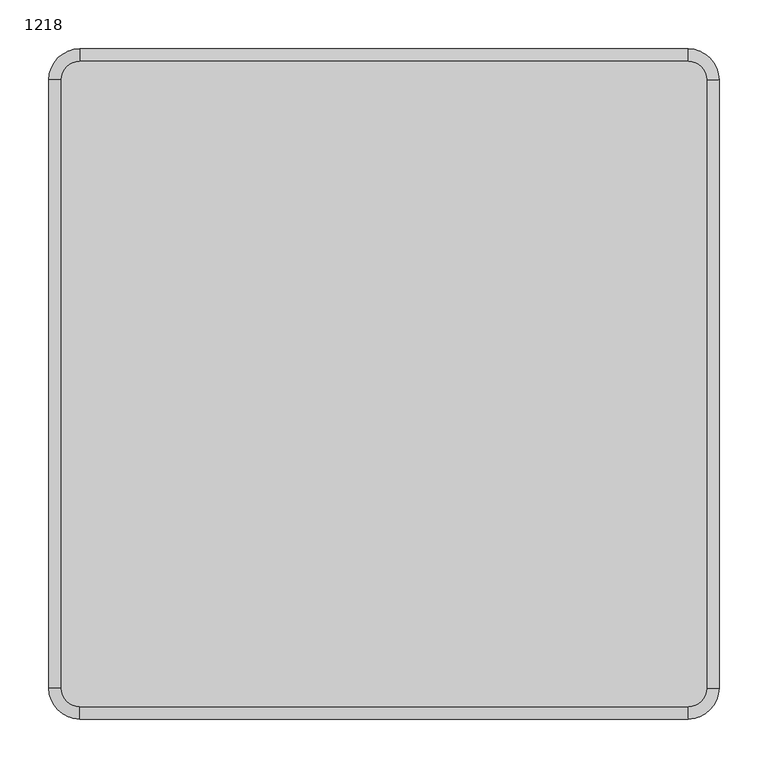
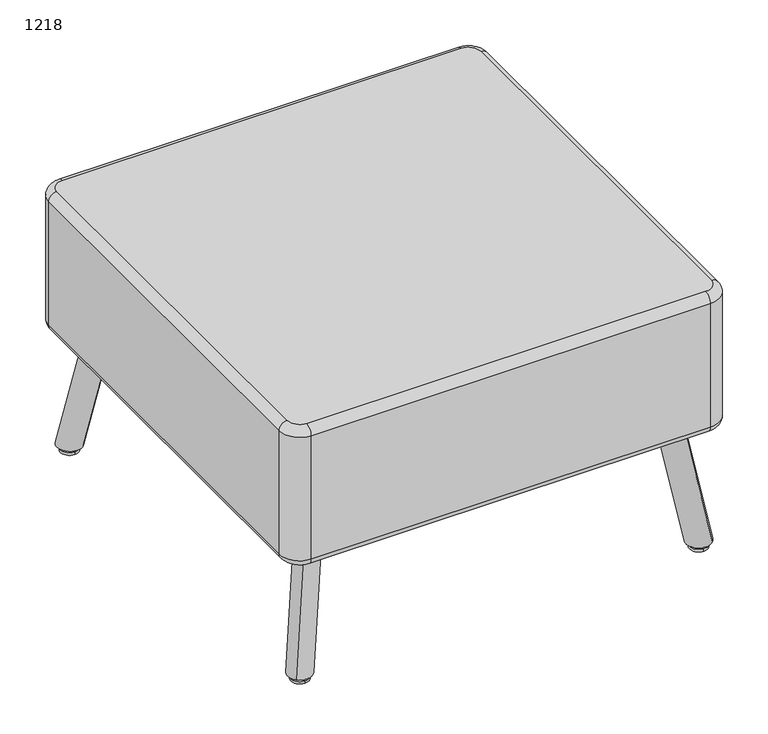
"""IFC4 building model written with IfcOpenShell, lengths in millimetres: furniture geometry, Laguna-Modular-Corner_Unit-ERG : 1218."""

from ifc_helpers import new_model, si_unit, point, frame, frame_2d, origin, place, context, project, spatial, polyline, circle_curve, ellipse_curve, trimmed, segment, composite_curve, outline, extrude, source, transform, mapped, element, save
from ifc_brep_helpers import plane_surface, cylinder_surface, revolved_surface, advanced_brep


def furniture_1218_1c4b5840(model_context):
    return source(origin(), model_context, "Body", "SolidModel", [
        advanced_brep(
        [(-4054.1088262, 625.5225001, 213.1041543), (-4027.7852493, 599.1989232, 221.2127055), (-4022.8519976, 594.2656715, 10.16), (-3995.2795669, 566.6932407, 10.16)],
        [
            (0, 1, circle_curve(frame((-4040.9470378, 612.3607116, 217.1584299), z_axis=(-0.1504884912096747, 0.15048849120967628, 0.9770907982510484), x_axis=(0.6909075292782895, -0.6909075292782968, 0.21282286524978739)), 19.05)),
            (1, 0, circle_curve(frame((-4040.9470378, 612.3607116, 217.1584299), z_axis=(-0.1504884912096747, 0.15048849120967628, 0.9770907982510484), x_axis=(0.6909075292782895, -0.6909075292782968, 0.21282286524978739)), 19.05)),
            (0, 2),
            (2, 3, ellipse_curve(frame((-4009.0657822, 580.4794561, 10.16), z_axis=(0.0, 0.0, 1.0), x_axis=(-0.7071067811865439, 0.7071067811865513, 0.0)), 19.4966528, 19.05)),
            (3, 1),
            (3, 2, ellipse_curve(frame((-4009.0657822, 580.4794561, 10.16), z_axis=(0.0, 0.0, 1.0), x_axis=(-0.7071067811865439, 0.7071067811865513, 0.0)), 19.4966528, 19.05)),
        ],
        [
            plane_surface(frame((-4040.9470378, 612.3607116, 217.1584299), z_axis=(-0.1504884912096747, 0.15048849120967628, 0.9770907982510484), x_axis=(-0.7071067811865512, -0.7071067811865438, 0.0))),
            cylinder_surface(frame((-4040.9470378, 612.3607116, 217.1584299), z_axis=(-0.1504884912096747, 0.15048849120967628, 0.9770907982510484), x_axis=(0.6909075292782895, -0.6909075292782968, 0.21282286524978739)), 19.05),
            plane_surface(frame((-4708.8602087, 1253.2877394, 10.16), z_axis=(0.0, 0.0, -1.0), x_axis=(-1.0, 0.0, 0.0))),
        ],
        [
            (0, [[1, 2]]),
            (1, [[-1, 3, 4, 5]]),
            (1, [[-2, -5, 6, -3]]),
            (2, [[-4, -6]]),
        ],
    ),
        advanced_brep(
        [(-4585.5755264, 1156.9892003, 213.1041543), (-4611.8991033, 1183.3127771, 221.2127055), (-4616.832355, 1188.2460289, 10.16), (-4644.4047857, 1215.8184596, 10.16)],
        [
            (0, 1, circle_curve(frame((-4598.7373148, 1170.1509887, 217.1584299), z_axis=(0.15048849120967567, -0.15048849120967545, 0.9770907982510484), x_axis=(-0.6909075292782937, 0.6909075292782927, 0.21282286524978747)), 19.05)),
            (1, 0, circle_curve(frame((-4598.7373148, 1170.1509887, 217.1584299), z_axis=(0.15048849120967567, -0.15048849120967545, 0.9770907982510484), x_axis=(-0.6909075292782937, 0.6909075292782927, 0.21282286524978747)), 19.05)),
            (0, 2),
            (2, 3, ellipse_curve(frame((-4630.6185704, 1202.0322442, 10.16), z_axis=(0.0, 0.0, 1.0), x_axis=(0.7071067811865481, -0.707106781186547, 0.0)), 19.4966528, 19.05)),
            (3, 1),
            (3, 2, ellipse_curve(frame((-4630.6185704, 1202.0322442, 10.16), z_axis=(0.0, 0.0, 1.0), x_axis=(0.7071067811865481, -0.707106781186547, 0.0)), 19.4966528, 19.05)),
        ],
        [
            plane_surface(frame((-4598.7373148, 1170.1509887, 217.1584299), z_axis=(0.15048849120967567, -0.15048849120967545, 0.9770907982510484), x_axis=(0.707106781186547, 0.707106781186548, 0.0))),
            cylinder_surface(frame((-4598.7373148, 1170.1509887, 217.1584299), z_axis=(0.15048849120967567, -0.15048849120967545, 0.9770907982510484), x_axis=(-0.6909075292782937, 0.6909075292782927, 0.21282286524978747)), 19.05),
            plane_surface(frame((-4708.8602087, 1253.2877394, 10.16), z_axis=(0.0, 0.0, -1.0), x_axis=(-1.0, 0.0, 0.0))),
        ],
        [
            (0, [[1, 2]]),
            (1, [[-1, 3, 4, 5]]),
            (1, [[-2, -5, 6, -3]]),
            (2, [[-4, -6]]),
        ],
    ),
        advanced_brep(
        [(-4027.7852493, 1183.3127771, 221.2127055), (-4054.1088262, 1156.9892003, 213.1041543), (-4022.8519976, 1188.2460289, 10.16), (-3995.2795669, 1215.8184596, 10.16)],
        [
            (0, 1, circle_curve(frame((-4040.9470378, 1170.1509887, 217.1584299), z_axis=(-0.15048849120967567, -0.15048849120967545, 0.9770907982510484), x_axis=(-0.6909075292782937, -0.6909075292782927, -0.21282286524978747)), 19.05)),
            (1, 0, circle_curve(frame((-4040.9470378, 1170.1509887, 217.1584299), z_axis=(-0.15048849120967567, -0.15048849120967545, 0.9770907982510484), x_axis=(-0.6909075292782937, -0.6909075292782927, -0.21282286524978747)), 19.05)),
            (1, 2),
            (2, 3, ellipse_curve(frame((-4009.0657822, 1202.0322442, 10.16), z_axis=(0.0, 0.0, 1.0), x_axis=(-0.7071067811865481, -0.707106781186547, 0.0)), 19.4966528, 19.05)),
            (3, 0),
            (3, 2, ellipse_curve(frame((-4009.0657822, 1202.0322442, 10.16), z_axis=(0.0, 0.0, 1.0), x_axis=(-0.7071067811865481, -0.707106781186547, 0.0)), 19.4966528, 19.05)),
        ],
        [
            plane_surface(frame((-4040.9470378, 1170.1509887, 217.1584299), z_axis=(-0.15048849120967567, -0.15048849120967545, 0.9770907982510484), x_axis=(-0.707106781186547, 0.707106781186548, 0.0))),
            cylinder_surface(frame((-4040.9470378, 1170.1509887, 217.1584299), z_axis=(-0.15048849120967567, -0.15048849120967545, 0.9770907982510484), x_axis=(-0.6909075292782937, -0.6909075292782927, -0.21282286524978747)), 19.05),
            plane_surface(frame((-4708.8602087, 1253.2877394, 10.16), z_axis=(0.0, 0.0, -1.0), x_axis=(-1.0, 0.0, 0.0))),
        ],
        [
            (0, [[1, 2]]),
            (1, [[-2, 3, 4, 5]]),
            (1, [[-1, -5, 6, -3]]),
            (2, [[-4, -6]]),
        ],
    ),
        advanced_brep(
        [(-4585.5755264, 625.5225001, 213.1041543), (-4611.8991033, 599.1989232, 221.2127055), (-4616.832355, 594.2656715, 10.16), (-4644.4047857, 566.6932407, 10.16)],
        [
            (0, 1, circle_curve(frame((-4598.7373148, 612.3607116, 217.1584299), z_axis=(0.15048849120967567, 0.1504884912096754, 0.9770907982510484), x_axis=(-0.6909075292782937, -0.6909075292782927, 0.21282286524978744)), 19.05)),
            (1, 0, circle_curve(frame((-4598.7373148, 612.3607116, 217.1584299), z_axis=(0.15048849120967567, 0.1504884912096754, 0.9770907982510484), x_axis=(-0.6909075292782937, -0.6909075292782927, 0.21282286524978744)), 19.05)),
            (0, 2),
            (2, 3, ellipse_curve(frame((-4630.6185704, 580.4794561, 10.16), z_axis=(0.0, 0.0, 1.0), x_axis=(0.7071067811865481, 0.7071067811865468, 0.0)), 19.4966528, 19.05)),
            (3, 1),
            (3, 2, ellipse_curve(frame((-4630.6185704, 580.4794561, 10.16), z_axis=(0.0, 0.0, 1.0), x_axis=(0.7071067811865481, 0.7071067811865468, 0.0)), 19.4966528, 19.05)),
        ],
        [
            plane_surface(frame((-4598.7373148, 612.3607116, 217.1584299), z_axis=(0.15048849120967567, 0.1504884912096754, 0.9770907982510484), x_axis=(-0.707106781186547, 0.707106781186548, 0.0))),
            cylinder_surface(frame((-4598.7373148, 612.3607116, 217.1584299), z_axis=(0.15048849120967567, 0.1504884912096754, 0.9770907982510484), x_axis=(-0.6909075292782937, -0.6909075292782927, 0.21282286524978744)), 19.05),
            plane_surface(frame((-4708.8602087, 1253.2877394, 10.16), z_axis=(0.0, 0.0, -1.0), x_axis=(-1.0, 0.0, 0.0))),
        ],
        [
            (0, [[1, 2]]),
            (1, [[-1, 3, 4, 5]]),
            (1, [[-2, -5, 6, -3]]),
            (2, [[-4, -6]]),
        ],
    ),
        extrude(outline(composite_curve([segment(trimmed(circle_curve(frame_2d((-4607.7447847, 646.4584712)), 5.08), [point((-4611.3368871, 650.0505736))], [point((-4604.1526822, 650.0505736))], False, "CARTESIAN"), True, "CONTINUOUS"), segment(polyline([(-4604.1526822, 650.0505736), (-4561.0474529, 606.9453442)]), True, "CONTINUOUS"), segment(trimmed(circle_curve(frame_2d((-4564.6395553, 603.3532418)), 5.08), [point((-4561.0474529, 606.9453442))], [point((-4561.0474529, 599.7611393))], False, "CARTESIAN"), True, "CONTINUOUS"), segment(polyline([(-4561.0474529, 599.7611393), (-4589.7842724, 571.0243198)]), True, "CONTINUOUS"), segment(trimmed(circle_curve(frame_2d((-4593.3763749, 574.6164222)), 5.08), [point((-4589.7842724, 571.0243198))], [point((-4596.9684773, 571.0243198))], False, "CARTESIAN"), True, "CONTINUOUS"), segment(polyline([(-4596.9684773, 571.0243198), (-4640.0737067, 614.1295491)]), True, "CONTINUOUS"), segment(trimmed(circle_curve(frame_2d((-4636.4816043, 617.7216516)), 5.08), [point((-4640.0737067, 614.1295491))], [point((-4640.0737067, 621.313754))], False, "CARTESIAN"), True, "CONTINUOUS"), segment(polyline([(-4640.0737067, 621.313754), (-4611.3368871, 650.0505736)]), True, "CONTINUOUS")], self_intersect=False)), frame((0.0, 0.0, 200.66), z_axis=(0.0, 0.0, 1.0), x_axis=(1.0, 0.0, 0.0)), (0.0, 0.0, 1.0), 2.54),
        extrude(outline(composite_curve([segment(polyline([(-4078.6368998, 1182.750561), (-4049.9000802, 1211.4873806)]), True, "CONTINUOUS"), segment(trimmed(circle_curve(frame_2d((-4046.3079777, 1207.8952781)), 5.08), [point((-4049.9000802, 1211.4873806))], [point((-4042.7158753, 1211.4873806))], False, "CARTESIAN"), True, "CONTINUOUS"), segment(polyline([(-4042.7158753, 1211.4873806), (-3999.6106459, 1168.3821512)]), True, "CONTINUOUS"), segment(trimmed(circle_curve(frame_2d((-4003.2027483, 1164.7900488)), 5.08), [point((-3999.6106459, 1168.3821512))], [point((-3999.6106459, 1161.1979463))], False, "CARTESIAN"), True, "CONTINUOUS"), segment(polyline([(-3999.6106459, 1161.1979463), (-4028.3474655, 1132.4611267)]), True, "CONTINUOUS"), segment(trimmed(circle_curve(frame_2d((-4031.9395679, 1136.0532292)), 5.08), [point((-4028.3474655, 1132.4611267))], [point((-4035.5316704, 1132.4611267))], False, "CARTESIAN"), True, "CONTINUOUS"), segment(polyline([(-4035.5316704, 1132.4611267), (-4078.6368998, 1175.5663561)]), True, "CONTINUOUS"), segment(trimmed(circle_curve(frame_2d((-4075.0447973, 1179.1584585)), 5.08), [point((-4078.6368998, 1175.5663561))], [point((-4078.6368998, 1182.750561))], False, "CARTESIAN"), True, "CONTINUOUS")], self_intersect=False)), frame((0.0, 0.0, 200.66), z_axis=(0.0, 0.0, 1.0), x_axis=(1.0, 0.0, 0.0)), (0.0, 0.0, 1.0), 2.54),
        extrude(outline(composite_curve([segment(trimmed(circle_curve(frame_2d((-4564.6395553, 1179.1584585)), 5.08), [point((-4561.0474529, 1182.750561))], [point((-4561.0474529, 1175.5663561))], False, "CARTESIAN"), True, "CONTINUOUS"), segment(polyline([(-4561.0474529, 1175.5663561), (-4604.1526822, 1132.4611267)]), True, "CONTINUOUS"), segment(trimmed(circle_curve(frame_2d((-4607.7447847, 1136.0532292)), 5.08), [point((-4604.1526822, 1132.4611267))], [point((-4611.3368871, 1132.4611267))], False, "CARTESIAN"), True, "CONTINUOUS"), segment(polyline([(-4611.3368871, 1132.4611267), (-4640.0737067, 1161.1979463)]), True, "CONTINUOUS"), segment(trimmed(circle_curve(frame_2d((-4636.4816043, 1164.7900488)), 5.08), [point((-4640.0737067, 1161.1979463))], [point((-4640.0737067, 1168.3821512))], False, "CARTESIAN"), True, "CONTINUOUS"), segment(polyline([(-4640.0737067, 1168.3821512), (-4596.9684773, 1211.4873806)]), True, "CONTINUOUS"), segment(trimmed(circle_curve(frame_2d((-4593.3763749, 1207.8952781)), 5.08), [point((-4596.9684773, 1211.4873806))], [point((-4589.7842724, 1211.4873806))], False, "CARTESIAN"), True, "CONTINUOUS"), segment(polyline([(-4589.7842724, 1211.4873806), (-4561.0474529, 1182.750561)]), True, "CONTINUOUS")], self_intersect=False)), frame((0.0, 0.0, 200.66), z_axis=(0.0, 0.0, 1.0), x_axis=(1.0, 0.0, 0.0)), (0.0, 0.0, 1.0), 2.54),
        extrude(outline(composite_curve([segment(polyline([(-4028.3474655, 650.0505736), (-3999.6106459, 621.313754)]), True, "CONTINUOUS"), segment(trimmed(circle_curve(frame_2d((-4003.2027483, 617.7216516)), 5.08), [point((-3999.6106459, 621.313754))], [point((-3999.6106459, 614.1295491))], False, "CARTESIAN"), True, "CONTINUOUS"), segment(polyline([(-3999.6106459, 614.1295491), (-4042.7158753, 571.0243198)]), True, "CONTINUOUS"), segment(trimmed(circle_curve(frame_2d((-4046.3079777, 574.6164222)), 5.08), [point((-4042.7158753, 571.0243198))], [point((-4049.9000802, 571.0243198))], False, "CARTESIAN"), True, "CONTINUOUS"), segment(polyline([(-4049.9000802, 571.0243198), (-4078.6368998, 599.7611393)]), True, "CONTINUOUS"), segment(trimmed(circle_curve(frame_2d((-4075.0447973, 603.3532418)), 5.08), [point((-4078.6368998, 599.7611393))], [point((-4078.6368998, 606.9453442))], False, "CARTESIAN"), True, "CONTINUOUS"), segment(polyline([(-4078.6368998, 606.9453442), (-4035.5316704, 650.0505736)]), True, "CONTINUOUS"), segment(trimmed(circle_curve(frame_2d((-4031.9395679, 646.4584712)), 5.08), [point((-4035.5316704, 650.0505736))], [point((-4028.3474655, 650.0505736))], False, "CARTESIAN"), True, "CONTINUOUS")], self_intersect=False)), frame((0.0, 0.0, 200.66), z_axis=(0.0, 0.0, 1.0), x_axis=(1.0, 0.0, 0.0)), (0.0, 0.0, 1.0), 2.54),
        advanced_brep(
        [(-4008.9588318, 576.1294575, 10.16), (-4008.9588318, 584.6155538, 10.16), (-4008.9588318, 580.3725057, 10.16), (-4008.9588318, 580.3725057, 0.0), (-4008.9588318, 594.4508591, 0.0), (-4008.9588318, 566.2941522, 0.0), (-4008.9588318, 594.4508591, 3.9615026), (-4008.9588318, 566.2941522, 3.9615026), (-4008.9588318, 584.6155538, 3.9615026), (-4008.9588318, 576.1294575, 3.9615026)],
        [
            (0, 1, circle_curve(frame((-4008.9588318, 580.3725057, 10.16), z_axis=(0.0, 0.0, 1.0), x_axis=(0.0, 1.0, 0.0)), 4.2430482)),
            (1, 2),
            (2, 0),
            (1, 0, circle_curve(frame((-4008.9588318, 580.3725057, 10.16), z_axis=(0.0, 0.0, 1.0), x_axis=(0.0, 1.0, 0.0)), 4.2430482)),
            (3, 4),
            (4, 5, circle_curve(frame((-4008.9588318, 580.3725057, 0.0), z_axis=(0.0, 0.0, -1.0), x_axis=(0.0, 1.0, 0.0)), 14.0783534)),
            (5, 3),
            (5, 4, circle_curve(frame((-4008.9588318, 580.3725057, 0.0), z_axis=(0.0, 0.0, -1.0), x_axis=(0.0, 1.0, 0.0)), 14.0783534)),
            (4, 6),
            (6, 7, circle_curve(frame((-4008.9588318, 580.3725057, 3.9615026), z_axis=(0.0, 0.0, -1.0), x_axis=(0.0, 1.0, 0.0)), 14.0783534)),
            (7, 5),
            (7, 6, circle_curve(frame((-4008.9588318, 580.3725057, 3.9615026), z_axis=(0.0, 0.0, -1.0), x_axis=(0.0, 1.0, 0.0)), 14.0783534)),
            (6, 8),
            (8, 9, circle_curve(frame((-4008.9588318, 580.3725057, 3.9615026), z_axis=(0.0, 0.0, -1.0), x_axis=(0.0, 1.0, 0.0)), 4.2430482)),
            (9, 7),
            (9, 8, circle_curve(frame((-4008.9588318, 580.3725057, 3.9615026), z_axis=(0.0, 0.0, -1.0), x_axis=(0.0, 1.0, 0.0)), 4.2430482)),
            (8, 1),
            (0, 9),
        ],
        [
            plane_surface(frame((-4008.9588318, 580.3725057, 10.16), z_axis=(0.0, 0.0, 1.0), x_axis=(0.0, 1.0, 0.0))),
            plane_surface(frame((-4008.9588318, 580.3725057, 0.0), z_axis=(0.0, 0.0, -1.0), x_axis=(0.0, 1.0, 0.0))),
            cylinder_surface(frame((-4008.9588318, 580.3725057, 10.16), z_axis=(0.0, 0.0, -1.0), x_axis=(0.0, 1.0, 0.0)), 14.0783534),
            plane_surface(frame((-4008.9588318, 580.3725057, 3.9615026), z_axis=(0.0, 0.0, 1.0), x_axis=(0.0, 1.0, 0.0))),
            cylinder_surface(frame((-4008.9588318, 580.3725057, 10.16), z_axis=(0.0, 0.0, -1.0), x_axis=(0.0, 1.0, 0.0)), 4.2430482),
        ],
        [
            (0, [[1, 2, 3]]),
            (0, [[4, -3, -2]]),
            (1, [[5, 6, 7]]),
            (1, [[-7, 8, -5]]),
            (2, [[-6, 9, 10, 11]]),
            (2, [[-8, -11, 12, -9]]),
            (3, [[-10, 13, 14, 15]]),
            (3, [[-12, -15, 16, -13]]),
            (4, [[-14, 17, -1, 18]]),
            (4, [[-16, -18, -4, -17]]),
        ],
    ),
        advanced_brep(
        [(-4630.7255208, 580.3725057, 10.16), (-4630.7255208, 584.6155538, 10.16), (-4630.7255208, 576.1294575, 10.16), (-4630.7255208, 566.2941522, 0.0), (-4630.7255208, 594.4508591, 0.0), (-4630.7255208, 580.3725057, 0.0), (-4630.7255208, 566.2941522, 3.9615026), (-4630.7255208, 594.4508591, 3.9615026), (-4630.7255208, 576.1294575, 3.9615026), (-4630.7255208, 584.6155538, 3.9615026)],
        [
            (0, 1),
            (1, 2, circle_curve(frame((-4630.7255208, 580.3725057, 10.16), z_axis=(0.0, 0.0, 1.0), x_axis=(0.0, 1.0, 0.0)), 4.2430482)),
            (2, 0),
            (2, 1, circle_curve(frame((-4630.7255208, 580.3725057, 10.16), z_axis=(0.0, 0.0, 1.0), x_axis=(0.0, 1.0, 0.0)), 4.2430482)),
            (3, 4, circle_curve(frame((-4630.7255208, 580.3725057, 0.0), z_axis=(0.0, 0.0, -1.0), x_axis=(0.0, 1.0, 0.0)), 14.0783534)),
            (4, 5),
            (5, 3),
            (4, 3, circle_curve(frame((-4630.7255208, 580.3725057, 0.0), z_axis=(0.0, 0.0, -1.0), x_axis=(0.0, 1.0, 0.0)), 14.0783534)),
            (6, 7, circle_curve(frame((-4630.7255208, 580.3725057, 3.9615026), z_axis=(0.0, 0.0, -1.0), x_axis=(0.0, 1.0, 0.0)), 14.0783534)),
            (7, 4),
            (3, 6),
            (7, 6, circle_curve(frame((-4630.7255208, 580.3725057, 3.9615026), z_axis=(0.0, 0.0, -1.0), x_axis=(0.0, 1.0, 0.0)), 14.0783534)),
            (8, 9, circle_curve(frame((-4630.7255208, 580.3725057, 3.9615026), z_axis=(0.0, 0.0, -1.0), x_axis=(0.0, 1.0, 0.0)), 4.2430482)),
            (9, 7),
            (6, 8),
            (9, 8, circle_curve(frame((-4630.7255208, 580.3725057, 3.9615026), z_axis=(0.0, 0.0, -1.0), x_axis=(0.0, 1.0, 0.0)), 4.2430482)),
            (1, 9),
            (8, 2),
        ],
        [
            plane_surface(frame((-4630.7255208, 580.3725057, 10.16), z_axis=(0.0, 0.0, 1.0), x_axis=(0.0, 1.0, 0.0))),
            plane_surface(frame((-4630.7255208, 580.3725057, 0.0), z_axis=(0.0, 0.0, -1.0), x_axis=(0.0, 1.0, 0.0))),
            cylinder_surface(frame((-4630.7255208, 580.3725057, 10.16), z_axis=(0.0, 0.0, 1.0), x_axis=(0.0, 1.0, 0.0)), 14.0783534),
            plane_surface(frame((-4630.7255208, 580.3725057, 3.9615026), z_axis=(0.0, 0.0, 1.0), x_axis=(0.0, 1.0, 0.0))),
            cylinder_surface(frame((-4630.7255208, 580.3725057, 10.16), z_axis=(0.0, 0.0, 1.0), x_axis=(0.0, 1.0, 0.0)), 4.2430482),
        ],
        [
            (0, [[1, 2, 3]]),
            (0, [[-3, 4, -1]]),
            (1, [[5, 6, 7]]),
            (1, [[8, -7, -6]]),
            (2, [[9, 10, -5, 11]]),
            (2, [[12, -11, -8, -10]]),
            (3, [[13, 14, -9, 15]]),
            (3, [[16, -15, -12, -14]]),
            (4, [[-2, 17, -13, 18]]),
            (4, [[-4, -18, -16, -17]]),
        ],
    ),
        advanced_brep(
        [(-4008.9588318, 1202.1391947, 10.16), (-4008.9588318, 1197.8961465, 10.16), (-4008.9588318, 1206.3822428, 10.16), (-4008.9588318, 1216.2175481, 0.0), (-4008.9588318, 1188.0608412, 0.0), (-4008.9588318, 1202.1391947, 0.0), (-4008.9588318, 1216.2175481, 3.9615026), (-4008.9588318, 1188.0608412, 3.9615026), (-4008.9588318, 1206.3822428, 3.9615026), (-4008.9588318, 1197.8961465, 3.9615026)],
        [
            (0, 1),
            (1, 2, circle_curve(frame((-4008.9588318, 1202.1391947, 10.16), z_axis=(0.0, 0.0, 1.0), x_axis=(0.0, -1.0, 0.0)), 4.2430482)),
            (2, 0),
            (2, 1, circle_curve(frame((-4008.9588318, 1202.1391947, 10.16), z_axis=(0.0, 0.0, 1.0), x_axis=(0.0, -1.0, 0.0)), 4.2430482)),
            (3, 4, circle_curve(frame((-4008.9588318, 1202.1391947, 0.0), z_axis=(0.0, 0.0, -1.0), x_axis=(0.0, -1.0, 0.0)), 14.0783534)),
            (4, 5),
            (5, 3),
            (4, 3, circle_curve(frame((-4008.9588318, 1202.1391947, 0.0), z_axis=(0.0, 0.0, -1.0), x_axis=(0.0, -1.0, 0.0)), 14.0783534)),
            (6, 7, circle_curve(frame((-4008.9588318, 1202.1391947, 3.9615026), z_axis=(0.0, 0.0, -1.0), x_axis=(0.0, -1.0, 0.0)), 14.0783534)),
            (7, 4),
            (3, 6),
            (7, 6, circle_curve(frame((-4008.9588318, 1202.1391947, 3.9615026), z_axis=(0.0, 0.0, -1.0), x_axis=(0.0, -1.0, 0.0)), 14.0783534)),
            (8, 9, circle_curve(frame((-4008.9588318, 1202.1391947, 3.9615026), z_axis=(0.0, 0.0, -1.0), x_axis=(0.0, -1.0, 0.0)), 4.2430482)),
            (9, 7),
            (6, 8),
            (9, 8, circle_curve(frame((-4008.9588318, 1202.1391947, 3.9615026), z_axis=(0.0, 0.0, -1.0), x_axis=(0.0, -1.0, 0.0)), 4.2430482)),
            (1, 9),
            (8, 2),
        ],
        [
            plane_surface(frame((-4008.9588318, 1202.1391947, 10.16), z_axis=(0.0, 0.0, 1.0), x_axis=(0.0, -1.0, 0.0))),
            plane_surface(frame((-4008.9588318, 1202.1391947, 0.0), z_axis=(0.0, 0.0, -1.0), x_axis=(0.0, -1.0, 0.0))),
            cylinder_surface(frame((-4008.9588318, 1202.1391947, 10.16), z_axis=(0.0, 0.0, 1.0), x_axis=(0.0, -1.0, 0.0)), 14.0783534),
            plane_surface(frame((-4008.9588318, 1202.1391947, 3.9615026), z_axis=(0.0, 0.0, 1.0), x_axis=(0.0, -1.0, 0.0))),
            cylinder_surface(frame((-4008.9588318, 1202.1391947, 10.16), z_axis=(0.0, 0.0, 1.0), x_axis=(0.0, -1.0, 0.0)), 4.2430482),
        ],
        [
            (0, [[1, 2, 3]]),
            (0, [[-3, 4, -1]]),
            (1, [[5, 6, 7]]),
            (1, [[8, -7, -6]]),
            (2, [[9, 10, -5, 11]]),
            (2, [[12, -11, -8, -10]]),
            (3, [[13, 14, -9, 15]]),
            (3, [[16, -15, -12, -14]]),
            (4, [[-2, 17, -13, 18]]),
            (4, [[-4, -18, -16, -17]]),
        ],
    ),
        advanced_brep(
        [(-4630.7255208, 1206.3822428, 10.16), (-4630.7255208, 1197.8961465, 10.16), (-4630.7255208, 1202.1391947, 10.16), (-4630.7255208, 1202.1391947, 0.0), (-4630.7255208, 1188.0608412, 0.0), (-4630.7255208, 1216.2175481, 0.0), (-4630.7255208, 1188.0608412, 3.9615026), (-4630.7255208, 1216.2175481, 3.9615026), (-4630.7255208, 1197.8961465, 3.9615026), (-4630.7255208, 1206.3822428, 3.9615026)],
        [
            (0, 1, circle_curve(frame((-4630.7255208, 1202.1391947, 10.16), z_axis=(0.0, 0.0, 1.0), x_axis=(0.0, -1.0, 0.0)), 4.2430482)),
            (1, 2),
            (2, 0),
            (1, 0, circle_curve(frame((-4630.7255208, 1202.1391947, 10.16), z_axis=(0.0, 0.0, 1.0), x_axis=(0.0, -1.0, 0.0)), 4.2430482)),
            (3, 4),
            (4, 5, circle_curve(frame((-4630.7255208, 1202.1391947, 0.0), z_axis=(0.0, 0.0, -1.0), x_axis=(0.0, -1.0, 0.0)), 14.0783534)),
            (5, 3),
            (5, 4, circle_curve(frame((-4630.7255208, 1202.1391947, 0.0), z_axis=(0.0, 0.0, -1.0), x_axis=(0.0, -1.0, 0.0)), 14.0783534)),
            (4, 6),
            (6, 7, circle_curve(frame((-4630.7255208, 1202.1391947, 3.9615026), z_axis=(0.0, 0.0, -1.0), x_axis=(0.0, -1.0, 0.0)), 14.0783534)),
            (7, 5),
            (7, 6, circle_curve(frame((-4630.7255208, 1202.1391947, 3.9615026), z_axis=(0.0, 0.0, -1.0), x_axis=(0.0, -1.0, 0.0)), 14.0783534)),
            (6, 8),
            (8, 9, circle_curve(frame((-4630.7255208, 1202.1391947, 3.9615026), z_axis=(0.0, 0.0, -1.0), x_axis=(0.0, -1.0, 0.0)), 4.2430482)),
            (9, 7),
            (9, 8, circle_curve(frame((-4630.7255208, 1202.1391947, 3.9615026), z_axis=(0.0, 0.0, -1.0), x_axis=(0.0, -1.0, 0.0)), 4.2430482)),
            (8, 1),
            (0, 9),
        ],
        [
            plane_surface(frame((-4630.7255208, 1202.1391947, 10.16), z_axis=(0.0, 0.0, 1.0), x_axis=(0.0, -1.0, 0.0))),
            plane_surface(frame((-4630.7255208, 1202.1391947, 0.0), z_axis=(0.0, 0.0, -1.0), x_axis=(0.0, -1.0, 0.0))),
            cylinder_surface(frame((-4630.7255208, 1202.1391947, 10.16), z_axis=(0.0, 0.0, -1.0), x_axis=(0.0, -1.0, 0.0)), 14.0783534),
            plane_surface(frame((-4630.7255208, 1202.1391947, 3.9615026), z_axis=(0.0, 0.0, 1.0), x_axis=(0.0, -1.0, 0.0))),
            cylinder_surface(frame((-4630.7255208, 1202.1391947, 10.16), z_axis=(0.0, 0.0, -1.0), x_axis=(0.0, -1.0, 0.0)), 4.2430482),
        ],
        [
            (0, [[1, 2, 3]]),
            (0, [[4, -3, -2]]),
            (1, [[5, 6, 7]]),
            (1, [[-7, 8, -5]]),
            (2, [[-6, 9, 10, 11]]),
            (2, [[-8, -11, 12, -9]]),
            (3, [[-10, 13, 14, 15]]),
            (3, [[-12, -15, 16, -13]]),
            (4, [[-14, 17, -1, 18]]),
            (4, [[-16, -18, -4, -17]]),
        ],
    ),
        advanced_brep(
        [(-3976.9421763, 1202.4058502, 215.9), (-4008.6921763, 1234.1558502, 215.9), (-4008.6921763, 1234.1558502, 419.1), (-3976.9421763, 1202.4058502, 419.1), (-3976.9421763, 580.1058502, 419.1), (-3976.9421763, 580.1058502, 215.9), (-4008.6921763, 548.3558502, 419.1), (-4008.6921763, 548.3558502, 215.9), (-4630.9921763, 548.3558502, 419.1), (-4630.9921763, 548.3558502, 215.9), (-4662.7421763, 580.1058502, 419.1), (-4662.7421763, 580.1058502, 215.9), (-4662.7421763, 1202.4058502, 419.1), (-4662.7421763, 1202.4058502, 215.9), (-4630.9921763, 1234.1558502, 419.1), (-4630.9921763, 1234.1558502, 215.9), (-3989.6421763, 1202.4058502, 431.8), (-4008.6921763, 1221.4558502, 431.8), (-4630.9921763, 1221.4558502, 431.8), (-4650.0421763, 1202.4058502, 431.8), (-4650.0421763, 580.1058502, 431.8), (-4630.9921763, 561.0558502, 431.8), (-4008.6921763, 561.0558502, 431.8), (-3989.6421763, 580.1058502, 431.8), (-4008.6921763, 1221.4558502, 203.2), (-3989.6421763, 1202.4058502, 203.2), (-3989.6421763, 580.1058502, 203.2), (-4008.6921763, 561.0558502, 203.2), (-4630.9921763, 561.0558502, 203.2), (-4650.0421763, 580.1058502, 203.2), (-4650.0421763, 1202.4058502, 203.2), (-4630.9921763, 1221.4558502, 203.2)],
        [
            (0, 1, circle_curve(frame((-4008.6921763, 1202.4058502, 215.9), z_axis=(0.0, 0.0, 1.0), x_axis=(0.0, 1.0, 0.0)), 31.75)),
            (1, 2),
            (2, 3, circle_curve(frame((-4008.6921763, 1202.4058502, 419.1), z_axis=(0.0, 0.0, -1.0), x_axis=(0.0, 1.0, 0.0)), 31.75)),
            (3, 0),
            (3, 4),
            (4, 5),
            (5, 0),
            (4, 6, circle_curve(frame((-4008.6921763, 580.1058502, 419.1), z_axis=(0.0, 0.0, -1.0), x_axis=(1.0, 0.0, 0.0)), 31.75)),
            (6, 7),
            (7, 5, circle_curve(frame((-4008.6921763, 580.1058502, 215.9), z_axis=(0.0, 0.0, 1.0), x_axis=(1.0, 0.0, 0.0)), 31.75)),
            (6, 8),
            (8, 9),
            (9, 7),
            (8, 10, circle_curve(frame((-4630.9921763, 580.1058502, 419.1), z_axis=(0.0, 0.0, -1.0), x_axis=(0.0, -1.0, 0.0)), 31.75)),
            (10, 11),
            (11, 9, circle_curve(frame((-4630.9921763, 580.1058502, 215.9), z_axis=(0.0, 0.0, 1.0), x_axis=(0.0, -1.0, 0.0)), 31.75)),
            (10, 12),
            (12, 13),
            (13, 11),
            (12, 14, circle_curve(frame((-4630.9921763, 1202.4058502, 419.1), z_axis=(0.0, 0.0, -1.0), x_axis=(-1.0, 0.0, 0.0)), 31.75)),
            (14, 15),
            (15, 13, circle_curve(frame((-4630.9921763, 1202.4058502, 215.9), z_axis=(0.0, 0.0, 1.0), x_axis=(-1.0, 0.0, 0.0)), 31.75)),
            (1, 15),
            (14, 2),
            (16, 17, circle_curve(frame((-4008.6921763, 1202.4058502, 431.8), z_axis=(0.0, 0.0, 1.0), x_axis=(0.0, 1.0, 0.0)), 19.05)),
            (17, 18),
            (18, 19, circle_curve(frame((-4630.9921763, 1202.4058502, 431.8), z_axis=(0.0, 0.0, 1.0), x_axis=(-1.0, 0.0, 0.0)), 19.05)),
            (19, 20),
            (20, 21, circle_curve(frame((-4630.9921763, 580.1058502, 431.8), z_axis=(0.0, 0.0, 1.0), x_axis=(0.0, -1.0, 0.0)), 19.05)),
            (21, 22),
            (22, 23, circle_curve(frame((-4008.6921763, 580.1058502, 431.8), z_axis=(0.0, 0.0, 1.0), x_axis=(1.0, 0.0, 0.0)), 19.05)),
            (23, 16),
            (24, 25, circle_curve(frame((-4008.6921763, 1202.4058502, 203.2), z_axis=(0.0, 0.0, -1.0), x_axis=(0.0, 1.0, 0.0)), 19.05)),
            (25, 26),
            (26, 27, circle_curve(frame((-4008.6921763, 580.1058502, 203.2), z_axis=(0.0, 0.0, -1.0), x_axis=(1.0, 0.0, 0.0)), 19.05)),
            (27, 28),
            (28, 29, circle_curve(frame((-4630.9921763, 580.1058502, 203.2), z_axis=(0.0, 0.0, -1.0), x_axis=(0.0, -1.0, 0.0)), 19.05)),
            (29, 30),
            (30, 31, circle_curve(frame((-4630.9921763, 1202.4058502, 203.2), z_axis=(0.0, 0.0, -1.0), x_axis=(-1.0, 0.0, 0.0)), 19.05)),
            (31, 24),
            (2, 17, circle_curve(frame((-4008.6921763, 1221.4558502, 419.1), z_axis=(1.0, 0.0, 0.0), x_axis=(0.0, 1.0, 0.0)), 12.7)),
            (16, 3, circle_curve(frame((-3989.6421763, 1202.4058502, 419.1), z_axis=(0.0, 1.0, 0.0), x_axis=(1.0, 0.0, 0.0)), 12.7)),
            (0, 25, circle_curve(frame((-3989.6421763, 1202.4058502, 215.9), z_axis=(0.0, 1.0, 0.0), x_axis=(1.0, 0.0, 0.0)), 12.7)),
            (24, 1, circle_curve(frame((-4008.6921763, 1221.4558502, 215.9), z_axis=(1.0, 0.0, 0.0), x_axis=(0.0, 1.0, 0.0)), 12.7)),
            (23, 4, circle_curve(frame((-3989.6421763, 580.1058502, 419.1), z_axis=(0.0, 1.0, 0.0), x_axis=(1.0, 0.0, 0.0)), 12.7)),
            (5, 26, circle_curve(frame((-3989.6421763, 580.1058502, 215.9), z_axis=(0.0, 1.0, 0.0), x_axis=(1.0, 0.0, 0.0)), 12.7)),
            (22, 6, circle_curve(frame((-4008.6921763, 561.0558502, 419.1), z_axis=(1.0, 0.0, 0.0), x_axis=(0.0, -1.0, 0.0)), 12.7)),
            (7, 27, circle_curve(frame((-4008.6921763, 561.0558502, 215.9), z_axis=(1.0, 0.0, 0.0), x_axis=(0.0, -1.0, 0.0)), 12.7)),
            (21, 8, circle_curve(frame((-4630.9921763, 561.0558502, 419.1), z_axis=(1.0, 0.0, 0.0), x_axis=(0.0, -1.0, 0.0)), 12.7)),
            (9, 28, circle_curve(frame((-4630.9921763, 561.0558502, 215.9), z_axis=(1.0, 0.0, 0.0), x_axis=(0.0, -1.0, 0.0)), 12.7)),
            (20, 10, circle_curve(frame((-4650.0421763, 580.1058502, 419.1), z_axis=(0.0, -1.0, 0.0), x_axis=(-1.0, 0.0, 0.0)), 12.7)),
            (11, 29, circle_curve(frame((-4650.0421763, 580.1058502, 215.9), z_axis=(0.0, -1.0, 0.0), x_axis=(-1.0, 0.0, 0.0)), 12.7)),
            (19, 12, circle_curve(frame((-4650.0421763, 1202.4058502, 419.1), z_axis=(0.0, -1.0, 0.0), x_axis=(-1.0, 0.0, 0.0)), 12.7)),
            (13, 30, circle_curve(frame((-4650.0421763, 1202.4058502, 215.9), z_axis=(0.0, -1.0, 0.0), x_axis=(-1.0, 0.0, 0.0)), 12.7)),
            (18, 14, circle_curve(frame((-4630.9921763, 1221.4558502, 419.1), z_axis=(-1.0, 0.0, 0.0), x_axis=(0.0, 1.0, 0.0)), 12.7)),
            (15, 31, circle_curve(frame((-4630.9921763, 1221.4558502, 215.9), z_axis=(-1.0, 0.0, 0.0), x_axis=(0.0, 1.0, 0.0)), 12.7)),
        ],
        [
            cylinder_surface(frame((-4008.6921763, 1202.4058502, 0.0), z_axis=(0.0, 0.0, -1.0), x_axis=(0.0, 1.0, 0.0)), 31.75),
            plane_surface(frame((-3976.9421763, 1202.4058502, 419.1), z_axis=(1.0, 0.0, 0.0), x_axis=(0.0, -1.0, 0.0))),
            cylinder_surface(frame((-4008.6921763, 580.1058502, 0.0), z_axis=(0.0, 0.0, -1.0), x_axis=(1.0, 0.0, 0.0)), 31.75),
            plane_surface(frame((-4008.6921763, 548.3558502, 419.1), z_axis=(0.0, -1.0, 0.0), x_axis=(-1.0, 0.0, 0.0))),
            cylinder_surface(frame((-4630.9921763, 580.1058502, 0.0), z_axis=(0.0, 0.0, -1.0), x_axis=(0.0, -1.0, 0.0)), 31.75),
            plane_surface(frame((-4662.7421763, 580.1058502, 419.1), z_axis=(-1.0, 0.0, 0.0), x_axis=(0.0, 1.0, 0.0))),
            cylinder_surface(frame((-4630.9921763, 1202.4058502, 0.0), z_axis=(0.0, 0.0, -1.0), x_axis=(-1.0, 0.0, 0.0)), 31.75),
            plane_surface(frame((-4630.9921763, 1234.1558502, 419.1), z_axis=(0.0, 1.0, 0.0), x_axis=(1.0, 0.0, 0.0))),
            plane_surface(frame((-4630.9921763, 1221.4558502, 431.8), z_axis=(0.0, 0.0, 1.0), x_axis=(-1.0, 0.0, 0.0))),
            plane_surface(frame((-4630.9921763, 1221.4558502, 203.2), z_axis=(0.0, 0.0, -1.0), x_axis=(1.0, 0.0, 0.0))),
            revolved_surface(trimmed(ellipse_curve(frame((-4008.6921763, 1221.4558502, 419.1), z_axis=(-1.0, 0.0, 0.0), x_axis=(0.0, 1.0, 0.0)), 12.7, 12.7), [point((-4008.6921763, 1221.4558502, 431.8))], [point((-4008.6921763, 1234.1558502, 419.1))], True, "CARTESIAN"), (-4008.6921763, 1202.4058502, 0.0), (0.0, 0.0, -1.0)),
            revolved_surface(trimmed(ellipse_curve(frame((-4008.6921763, 1221.4558502, 215.9), z_axis=(-1.0, 0.0, 0.0), x_axis=(0.0, 1.0, 0.0)), 12.7, 12.7), [point((-4008.6921763, 1234.1558502, 215.9))], [point((-4008.6921763, 1221.4558502, 203.2))], True, "CARTESIAN"), (-4008.6921763, 1202.4058502, 0.0), (0.0, 0.0, -1.0)),
            cylinder_surface(frame((-3989.6421763, 1202.4058502, 419.1), z_axis=(0.0, 1.0, 0.0), x_axis=(1.0, 0.0, 0.0)), 12.7),
            cylinder_surface(frame((-3989.6421763, 1202.4058502, 215.9), z_axis=(0.0, 1.0, 0.0), x_axis=(1.0, 0.0, 0.0)), 12.7),
            revolved_surface(trimmed(ellipse_curve(frame((-3989.6421763, 580.1058502, 419.1), z_axis=(0.0, 1.0, 0.0), x_axis=(1.0, 0.0, 0.0)), 12.7, 12.7), [point((-3989.6421763, 580.1058502, 431.8))], [point((-3976.9421763, 580.1058502, 419.1))], True, "CARTESIAN"), (-4008.6921763, 580.1058502, 0.0), (0.0, 0.0, -1.0)),
            revolved_surface(trimmed(ellipse_curve(frame((-3989.6421763, 580.1058502, 215.9), z_axis=(0.0, 1.0, 0.0), x_axis=(1.0, 0.0, 0.0)), 12.7, 12.7), [point((-3976.9421763, 580.1058502, 215.9))], [point((-3989.6421763, 580.1058502, 203.2))], True, "CARTESIAN"), (-4008.6921763, 580.1058502, 0.0), (0.0, 0.0, -1.0)),
            cylinder_surface(frame((-4008.6921763, 561.0558502, 419.1), z_axis=(1.0, 0.0, 0.0), x_axis=(0.0, -1.0, 0.0)), 12.7),
            cylinder_surface(frame((-4008.6921763, 561.0558502, 215.9), z_axis=(1.0, 0.0, 0.0), x_axis=(0.0, -1.0, 0.0)), 12.7),
            revolved_surface(trimmed(ellipse_curve(frame((-4630.9921763, 561.0558502, 419.1), z_axis=(1.0, 0.0, 0.0), x_axis=(0.0, -1.0, 0.0)), 12.7, 12.7), [point((-4630.9921763, 561.0558502, 431.8))], [point((-4630.9921763, 548.3558502, 419.1))], True, "CARTESIAN"), (-4630.9921763, 580.1058502, 0.0), (0.0, 0.0, -1.0)),
            revolved_surface(trimmed(ellipse_curve(frame((-4630.9921763, 561.0558502, 215.9), z_axis=(1.0, 0.0, 0.0), x_axis=(0.0, -1.0, 0.0)), 12.7, 12.7), [point((-4630.9921763, 548.3558502, 215.9))], [point((-4630.9921763, 561.0558502, 203.2))], True, "CARTESIAN"), (-4630.9921763, 580.1058502, 0.0), (0.0, 0.0, -1.0)),
            cylinder_surface(frame((-4650.0421763, 580.1058502, 419.1), z_axis=(0.0, -1.0, 0.0), x_axis=(-1.0, 0.0, 0.0)), 12.7),
            cylinder_surface(frame((-4650.0421763, 580.1058502, 215.9), z_axis=(0.0, -1.0, 0.0), x_axis=(-1.0, 0.0, 0.0)), 12.7),
            revolved_surface(trimmed(ellipse_curve(frame((-4650.0421763, 1202.4058502, 419.1), z_axis=(0.0, -1.0, 0.0), x_axis=(-1.0, 0.0, 0.0)), 12.7, 12.7), [point((-4650.0421763, 1202.4058502, 431.8))], [point((-4662.7421763, 1202.4058502, 419.1))], True, "CARTESIAN"), (-4630.9921763, 1202.4058502, 0.0), (0.0, 0.0, -1.0)),
            revolved_surface(trimmed(ellipse_curve(frame((-4650.0421763, 1202.4058502, 215.9), z_axis=(0.0, -1.0, 0.0), x_axis=(-1.0, 0.0, 0.0)), 12.7, 12.7), [point((-4662.7421763, 1202.4058502, 215.9))], [point((-4650.0421763, 1202.4058502, 203.2))], True, "CARTESIAN"), (-4630.9921763, 1202.4058502, 0.0), (0.0, 0.0, -1.0)),
            cylinder_surface(frame((-4630.9921763, 1221.4558502, 419.1), z_axis=(-1.0, 0.0, 0.0), x_axis=(0.0, 1.0, 0.0)), 12.7),
            cylinder_surface(frame((-4630.9921763, 1221.4558502, 215.9), z_axis=(-1.0, 0.0, 0.0), x_axis=(0.0, 1.0, 0.0)), 12.7),
        ],
        [
            (0, [[1, 2, 3, 4]]),
            (1, [[-4, 5, 6, 7]]),
            (2, [[-6, 8, 9, 10]]),
            (3, [[-9, 11, 12, 13]]),
            (4, [[-12, 14, 15, 16]]),
            (5, [[-15, 17, 18, 19]]),
            (6, [[-18, 20, 21, 22]]),
            (7, [[-2, 23, -21, 24]]),
            (8, [[25, 26, 27, 28, 29, 30, 31, 32]]),
            (9, [[33, 34, 35, 36, 37, 38, 39, 40]]),
            (10, [[-3, 41, -25, 42]]),
            (11, [[-1, 43, -33, 44]]),
            (12, [[-5, -42, -32, 45]]),
            (13, [[-7, 46, -34, -43]]),
            (14, [[-8, -45, -31, 47]]),
            (15, [[-10, 48, -35, -46]]),
            (16, [[-11, -47, -30, 49]]),
            (17, [[-13, 50, -36, -48]]),
            (18, [[-14, -49, -29, 51]]),
            (19, [[-16, 52, -37, -50]]),
            (20, [[-17, -51, -28, 53]]),
            (21, [[-19, 54, -38, -52]]),
            (22, [[-20, -53, -27, 55]]),
            (23, [[-22, 56, -39, -54]]),
            (24, [[-24, -55, -26, -41]]),
            (25, [[-23, -44, -40, -56]]),
        ],
    ),
    ])


if __name__ == "__main__":
    model = new_model("IFC4")
    model_context = context("Model", 3, world=origin())
    ifc_project = project(units=[si_unit("LENGTHUNIT", "METRE", prefix="MILLI")], contexts=[model_context])
    site = spatial("IfcSite", under=ifc_project)
    building = spatial("IfcBuilding", under=site)
    placement = place(None, origin())
    furniture_1218_shape = furniture_1218_1c4b5840(model_context)
    element("IfcFurniture", 1, ObjectType="Laguna-Modular-Corner_Unit-ERG : 1218", at=placement, inside=building, context=model_context, shape_type="MappedRepresentation", body=[
        mapped(furniture_1218_shape, transform((0.0, 0.0, 0.0), x_axis=(1.0, 0.0, 0.0), y_axis=(0.0, 1.0, 0.0), z_axis=(0.0, 0.0, 1.0))),
    ])
    save(model, "model.ifc")
